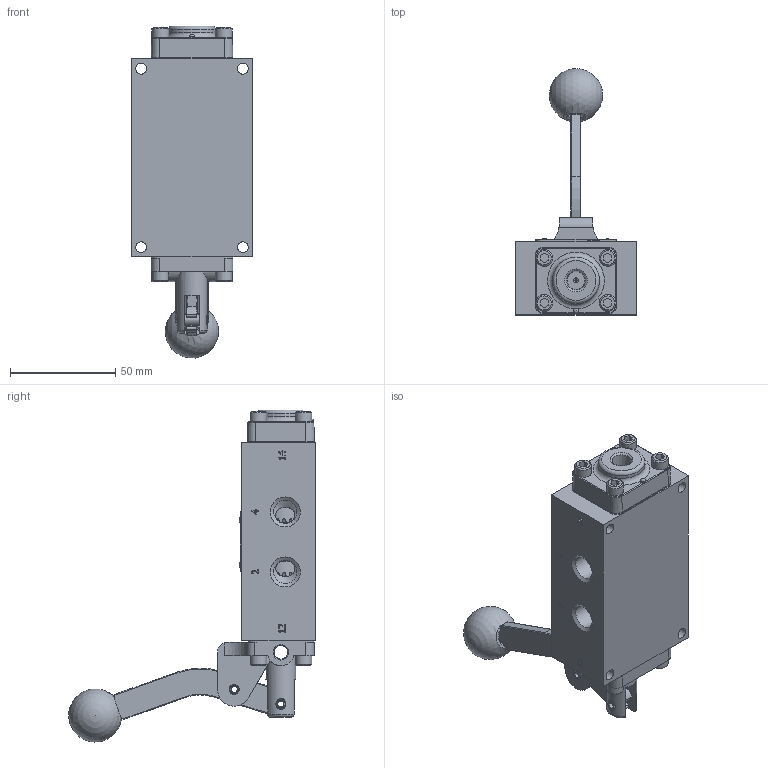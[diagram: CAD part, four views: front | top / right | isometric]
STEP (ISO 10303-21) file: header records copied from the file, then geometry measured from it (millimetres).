
FILE_DESCRIPTION(/* description */ (''),/* implementation_level */ '2;1');
FILE_NAME(/* name */ 'HR2CHJLO.stp',/* time_stamp */ '2025-02-15T06:48:08-05:00',/* author */ ('rmckenna'),/* organization */ (''),/* preprocessor_version */ 'ST-DEVELOPER v20',/* originating_system */ 'Autodesk Inventor 2024',/* authorisation */ '');
FILE_SCHEMA (('AUTOMOTIVE_DESIGN { 1 0 10303 214 3 1 1 }'));
Length unit declared in the file: centimetre
Products named in the file (1): Part121
Bounding box: 57.15 x 117.28 x 157.93 mm (x, y, z)
Volume: 207249.5 mm3; surface area: 61761 mm2
Topology: 1 solids, 31 shells, 1234 faces, 3043 edges, 1940 vertices
Faces by surface type: plane 538, cone 266, cylinder 225, bspline 102, torus 99, sphere 4
Full cylindrical faces by diameter (mm): 1.016 x1, 2.07 x2, 2.261 x2, 2.362 x2, 2.381 x2, 2.778 x2, 3.175 x2, 3.683 x10, 3.912 x3, 4.75 x2, 4.763 x2, 4.826 x8, 4.978 x4, 5.055 x1, 5.156 x12, 6.528 x3, 7.798 x1, 7.938 x8, 9.922 x2, 11.113 x6, 11.303 x2, 14.275 x1, 14.986 x1, 18.618 x1, 18.745 x12, 19.177 x2, 23.825 x6
Entity records: 41379 total; most frequent: CARTESIAN_POINT 11375, ORIENTED_EDGE 6042, DIRECTION 5704, EDGE_CURVE 3021, AXIS2_PLACEMENT_3D 2085, VERTEX_POINT 1940, LINE 1534, VECTOR 1534
